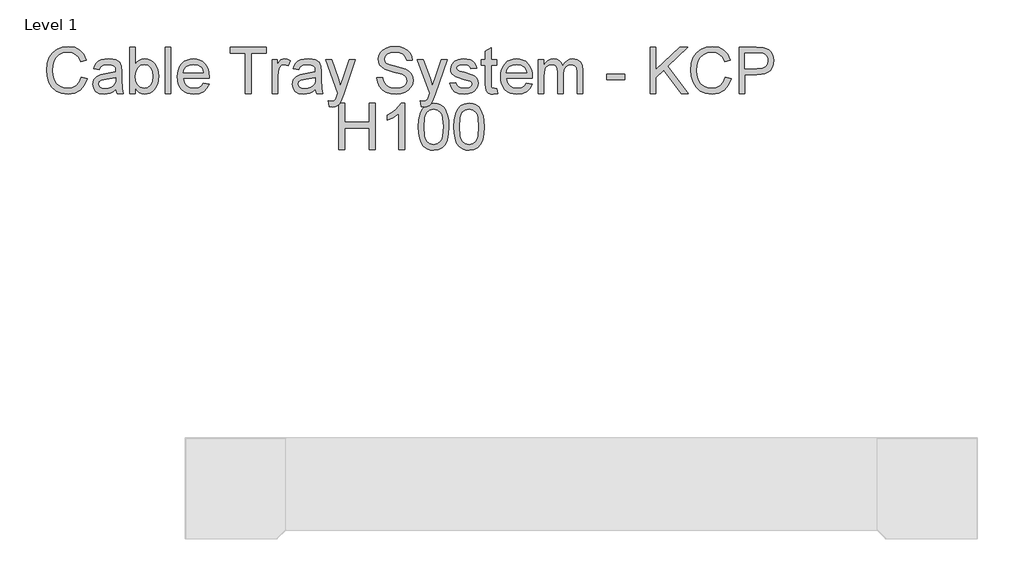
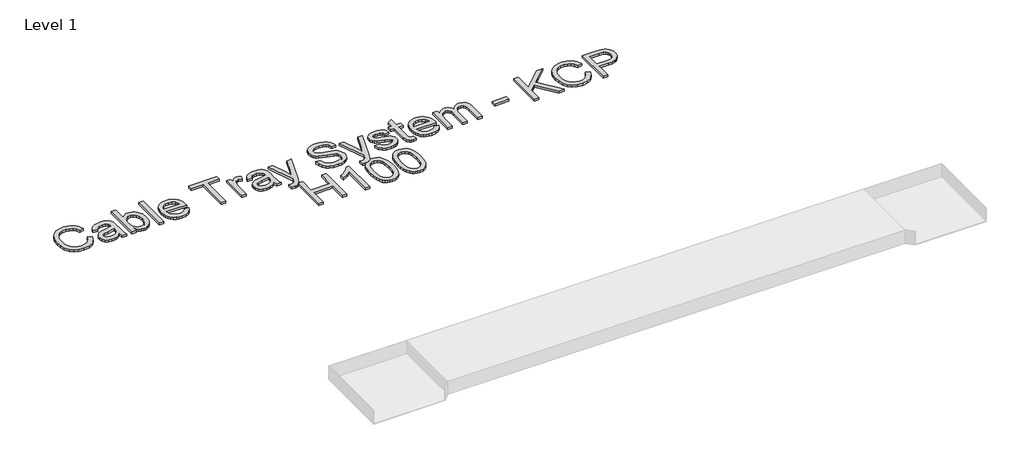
# One storey, part 92 of 106: 1 proxy.
"""IFC4 building model written with IfcOpenShell, lengths in millimetres."""

from ifc_helpers import new_model, si_unit, origin, origin_with_axes, place, context, project, spatial, polyline, outline, extrude, element, save

model = new_model("IFC4")

# Units and contexts
model_context = context("Model", 3, world=origin())
ifc_project = project(units=[si_unit("LENGTHUNIT", "METRE", prefix="MILLI")], contexts=[model_context])

# Site, building, storey
site = spatial("IfcSite", under=ifc_project)
building = spatial("IfcBuilding", under=site)
storey = spatial("IfcBuildingStorey", under=building, Name="Level 1", Elevation=0.0)

# Proxy
placement = place(None, origin())
element("IfcBuildingElementProxy", 1, Name="250mm Arial 3", ObjectType="250mm Arial 3", at=placement, inside=storey, context=model_context, shape_type="SweptSolid", body=[
    extrude(outline(polyline([(164241.9703029, 25992.4106539), (164273.3628998, 25984.31725), (164258.8775462, 25947.7359841), (164236.1455046, 25921.01089), (164206.2857493, 25904.6631338), (164170.4172548, 25899.2138818), (164134.0046015, 25903.3372258), (164105.0875438, 25915.7072579), (164082.9226536, 25935.8947824), (164066.7665027, 25963.4706036), (164056.9026667, 25995.8902044), (164053.6147213, 26030.6090677), (164057.3318623, 26067.2286547), (164068.4832853, 26098.8511778), (164086.4865105, 26124.472626), (164110.7590579, 26143.0889877), (164139.5458241, 26154.4243517), (164171.0917051, 26158.2028064), (164205.5116643, 26153.3130415), (164233.9688695, 26138.643747), (164255.5742725, 26115.0992993), (164269.4388252, 26083.584075), (164238.0462283, 26076.1038078), (164227.1630526, 26098.9967978), (164212.2944886, 26114.7007605), (164193.2565954, 26123.7828472), (164169.8654318, 26126.8102095), (164142.9027473, 26123.4532863), (164120.7531855, 26113.3825166), (164103.9455768, 26097.6555613), (164093.0087517, 26077.3300811), (164087.0076766, 26054.3527848), (164085.0073183, 26030.6703814), (164087.3755586, 26001.6690174), (164094.4802796, 25976.5917281), (164106.5897287, 25956.3965394), (164123.9721529, 25942.0414774), (164144.8111351, 25933.4652284), (164167.2902579, 25930.6064787), (164193.4941858, 25934.4998965), (164215.3295151, 25946.1801498), (164231.815227, 25965.5246114), (164241.9703029, 25992.4106539)])), origin_with_axes(), (0.0, 0.0, 1.0), 15.0),
    extrude(outline(polyline([(164430.3258844, 25926.6824041), (164415.3270289, 25913.8218627), (164399.8836493, 25905.406562), (164383.6431921, 25900.7620518), (164366.2531036, 25899.2138818), (164340.0185188, 25902.938687), (164320.666393, 25914.1131026), (164308.7332208, 25931.0816596), (164304.7554967, 25952.1888891), (164306.2576815, 25965.2027147), (164310.764236, 25977.0209238), (164326.5525049, 25995.0471415), (164348.5334541, 26005.3478374), (164375.6954081, 26010.0689897), (164430.1419434, 26020.8601949), (164430.3258844, 26027.8499528), (164428.1645777, 26041.8601254), (164421.6806575, 26051.0265185), (164407.1799755, 26057.8323354), (164386.9771226, 26060.100941), (164368.2764546, 26058.591092), (164355.2166437, 26054.0615449), (164346.3108338, 26045.6845653), (164340.0721683, 26032.6324187), (164308.6795713, 26036.5564933), (164314.1288234, 26053.7243198), (164322.2605483, 26067.2133262), (164333.8335028, 26077.5293505), (164349.6064433, 26085.1782303), (164368.8972554, 26089.914711), (164391.0238246, 26091.4935379), (164412.2460172, 26090.098652), (164429.0689543, 26085.9139943), (164441.7532189, 26079.6216794), (164450.5593941, 26071.9038217), (164460.1856397, 26050.5973228), (164461.7184813, 26023.1288005), (164461.7184813, 25984.0719953), (164463.3126366, 25929.5334895), (164469.5666306, 25903.1379564), (164438.1740336, 25903.1379564), (164430.3258844, 25926.6824041)]), holes=[polyline([(164430.3258844, 25989.4675979), (164379.6807964, 25979.8413524), (164352.6721266, 25974.7523181), (164340.4400503, 25966.4749732), (164336.1480936, 25954.3961811), (164338.4856772, 25945.0611754), (164345.4984277, 25937.4122956), (164357.0330611, 25932.3079329), (164372.9362932, 25930.6064787), (164389.7975513, 25932.4842097), (164404.6967721, 25938.1174028), (164416.7755643, 25946.4177403), (164425.1755365, 25956.2969047), (164428.9003417, 25966.4749732), (164430.1419434, 25980.5771164), (164430.3258844, 25989.4675979)])]), origin_with_axes(), (0.0, 0.0, 1.0), 15.0),
    extrude(outline(polyline([(164536.275899, 25903.1379564), (164504.8833021, 25903.1379564), (164504.8833021, 26154.2787318), (164536.275899, 26154.2787318), (164536.275899, 26061.1432733), (164546.5995875, 26074.4215141), (164558.2568482, 26083.9059718), (164571.2476812, 26089.5966464), (164585.5720864, 26091.4935379), (164601.7435657, 26089.7844195), (164617.025997, 26084.6570642), (164630.5456603, 26076.4333687), (164641.428836, 26065.4352299), (164656.4200273, 26035.5448178), (164661.8462867, 25998.1128248), (164656.2284221, 25956.2049342), (164649.2060913, 25939.2746982), (164639.3748282, 25925.0269351), (164627.5738635, 25913.7337243), (164614.6424282, 25905.6671451), (164600.5805221, 25900.8271976), (164585.3881454, 25899.2138818), (164570.5923914, 25901.2947143), (164557.475099, 25907.5372119), (164546.0362682, 25917.9413746), (164536.275899, 25932.5072023), (164536.275899, 25903.1379564)]), holes=[polyline([(164536.275899, 25996.6412968), (164538.4218773, 25970.4603615), (164544.8598122, 25952.7407121), (164561.3072031, 25936.140037), (164582.6903441, 25930.6064787), (164600.8085323, 25934.6838375), (164616.290233, 25946.9159138), (164626.9128256, 25967.2260656), (164630.4536898, 25995.5376509), (164627.0584455, 26024.2631033), (164616.8727128, 26044.3433289), (164601.8738573, 26056.161538), (164584.0392447, 26060.100941), (164565.9210565, 26056.0235822), (164550.4393558, 26043.7915059), (164539.8167632, 26023.8492361), (164536.275899, 25996.6412968)])]), origin_with_axes(), (0.0, 0.0, 1.0), 15.0),
    extrude(outline(polyline([(164697.1629582, 25903.1379564), (164697.1629582, 26154.2787318), (164728.5555552, 26154.2787318), (164728.5555552, 25903.1379564), (164697.1629582, 25903.1379564)])), origin_with_axes(), (0.0, 0.0, 1.0), 15.0),
    extrude(outline(polyline([(164904.7710309, 25958.075001), (164935.5504911, 25954.1509264), (164924.4603818, 25930.9590323), (164906.763725, 25913.6225933), (164882.8590595, 25902.8160596), (164853.1449242, 25899.2138818), (164833.666339, 25900.7678), (164816.3107394, 25905.4295547), (164801.0781256, 25913.1991458), (164787.9684974, 25924.0765733), (164777.426379, 25937.759101), (164769.8962944, 25953.9439928), (164765.3782436, 25972.6312485), (164763.8722267, 25993.8208682), (164765.393572, 26015.7290074), (164769.957608, 26035.0389801), (164777.5643347, 26051.7507861), (164788.2137521, 26065.8644256), (164801.2888913, 26077.0771622), (164816.1727837, 26085.0862598), (164832.8654292, 26089.8917184), (164851.3668279, 26091.4935379), (164869.2723344, 26089.8955505), (164885.4648903, 26085.1015883), (164899.9444957, 26077.1116512), (164912.7111506, 26065.9257393), (164923.1325577, 26051.8427566), (164930.57642, 26035.1616074), (164935.0427373, 26015.8822916), (164936.5315098, 25994.0048092), (164936.3475688, 25985.5435233), (164795.2648236, 25985.5435233), (164800.6987473, 25962.0450609), (164813.3216982, 25944.7699355), (164831.5395212, 25934.1473429), (164853.7580609, 25930.6064787), (164870.4660348, 25932.2466193), (164884.5375211, 25937.1670409), (164895.9725198, 25945.6743121), (164904.7710309, 25958.075001)]), holes=[polyline([(164795.2648236, 26016.9361202), (164905.1389129, 26016.9361202), (164900.8929415, 26033.5214669), (164892.5696113, 26045.3856612), (164874.2674821, 26056.4221211), (164851.2442006, 26060.100941), (164830.0833216, 26057.1655493), (164812.5859342, 26048.359374), (164800.4228358, 26034.632777), (164795.2648236, 26016.9361202)])]), origin_with_axes(), (0.0, 0.0, 1.0), 15.0),
    extrude(outline(polyline([(165132.7352405, 25903.1379564), (165132.7352405, 26122.8861348), (165050.3296736, 26122.8861348), (165050.3296736, 26154.2787318), (165246.5334044, 26154.2787318), (165246.5334044, 26122.8861348), (165164.1278375, 26122.8861348), (165164.1278375, 25903.1379564), (165132.7352405, 25903.1379564)])), origin_with_axes(), (0.0, 0.0, 1.0), 15.0),
    extrude(outline(polyline([(165277.9260013, 25903.1379564), (165277.9260013, 26087.5694633), (165305.3945236, 26087.5694633), (165305.3945236, 26060.284882), (165315.5419353, 26076.1038078), (165324.8922693, 26085.423485), (165344.5126424, 26091.4935379), (165360.1476272, 26089.0716481), (165376.0278667, 26081.8059787), (165365.5432298, 26053.6630061), (165343.4703101, 26060.100941), (165334.0969834, 26058.5527709), (165325.7200038, 26053.9082608), (165314.4076325, 26036.7404343), (165309.3185982, 26000.0748621), (165309.3185982, 25903.1379564), (165277.9260013, 25903.1379564)])), origin_with_axes(), (0.0, 0.0, 1.0), 15.0),
    extrude(outline(polyline([(165513.3704782, 25926.6824041), (165498.3716227, 25913.8218627), (165482.9282431, 25905.406562), (165466.6877859, 25900.7620518), (165449.2976974, 25899.2138818), (165423.0631126, 25902.938687), (165403.7109868, 25914.1131026), (165391.7778146, 25931.0816596), (165387.8000905, 25952.1888891), (165389.3022753, 25965.2027147), (165393.8088298, 25977.0209238), (165409.5970987, 25995.0471415), (165431.5780479, 26005.3478374), (165458.7400019, 26010.0689897), (165513.1865372, 26020.8601949), (165513.3704782, 26027.8499528), (165511.2091715, 26041.8601254), (165504.7252513, 26051.0265185), (165490.2245693, 26057.8323354), (165470.0217164, 26060.100941), (165451.3210484, 26058.591092), (165438.2612375, 26054.0615449), (165429.3554276, 26045.6845653), (165423.1167621, 26032.6324187), (165391.7241651, 26036.5564933), (165397.1734172, 26053.7243198), (165405.3051421, 26067.2133262), (165416.8780966, 26077.5293505), (165432.6510371, 26085.1782303), (165451.9418492, 26089.914711), (165474.0684184, 26091.4935379), (165495.290611, 26090.098652), (165512.1135481, 26085.9139943), (165524.7978127, 26079.6216794), (165533.6039879, 26071.9038217), (165543.2302335, 26050.5973228), (165544.7630751, 26023.1288005), (165544.7630751, 25984.0719953), (165546.3572304, 25929.5334895), (165552.6112244, 25903.1379564), (165521.2186274, 25903.1379564), (165513.3704782, 25926.6824041)]), holes=[polyline([(165513.3704782, 25989.4675979), (165462.7253902, 25979.8413524), (165435.7167204, 25974.7523181), (165423.4846441, 25966.4749732), (165419.1926874, 25954.3961811), (165421.530271, 25945.0611754), (165428.5430215, 25937.4122956), (165440.0776549, 25932.3079329), (165455.980887, 25930.6064787), (165472.8421451, 25932.4842097), (165487.7413659, 25938.1174028), (165499.8201581, 25946.4177403), (165508.2201303, 25956.2969047), (165511.9449355, 25966.4749732), (165513.1865372, 25980.5771164), (165513.3704782, 25989.4675979)])]), origin_with_axes(), (0.0, 0.0, 1.0), 15.0),
    extrude(outline(polyline([(165587.9278959, 25832.5046133), (165584.0038213, 25862.7322506), (165599.9453744, 25859.9731356), (165614.8445952, 25863.4373577), (165623.9803314, 25873.0942601), (165632.5642446, 25896.2095122), (165635.0167913, 25903.8124067), (165568.3075228, 26087.5694633), (165601.3555887, 26087.5694633), (165636.7948876, 25985.1143277), (165649.1189344, 25944.1567989), (165661.4429813, 25980.3931754), (165697.8019851, 26087.5694633), (165730.6047964, 26087.5694633), (165666.4093882, 25898.7233725), (165649.7320711, 25857.7658437), (165641.1941431, 25844.6907044), (165631.5219123, 25835.6316103), (165620.3015115, 25830.3433066), (165607.1190733, 25828.5805387), (165587.9278959, 25832.5046133)])), origin_with_axes(), (0.0, 0.0, 1.0), 15.0),
    extrude(outline(polyline([(165846.9168205, 25989.4675979), (165878.3094174, 25989.4675979), (165881.9115953, 25972.0468526), (165888.4261723, 25958.0443442), (165898.5889124, 25946.9312422), (165913.1355796, 25938.1787164), (165930.9165427, 25932.4995381), (165950.7821705, 25930.6064787), (165968.2718937, 25932.0396856), (165983.5849817, 25936.3393065), (165995.9933348, 25943.1451234), (166004.7688533, 25952.0969186), (166009.9881791, 25962.3746218), (166011.7279543, 25973.1581628), (166006.5162927, 25992.7478791), (165998.576173, 26000.4963936), (165985.179137, 26007.0033064), (165939.4697991, 26018.990128), (165890.2655823, 26034.4718287), (165874.6382617, 26045.0331076), (165863.5634808, 26057.8323354), (165856.9645975, 26072.5936004), (165854.7649697, 26089.0409913), (165857.4857637, 26107.4274268), (165865.6481454, 26124.5722607), (165879.0375172, 26139.1035995), (165897.4392812, 26149.64955), (165919.5275293, 26156.0644923), (165943.9763536, 26158.2028064), (165970.4638572, 26155.9648576), (165993.6404229, 26149.2510112), (166012.6783162, 26138.1992229), (166026.7498025, 26122.9474485), (166035.6556124, 26104.4460498), (166039.1964766, 26083.6453887), (166007.8038797, 26083.6453887), (166002.0403951, 26102.3767136), (165990.0229166, 26115.8963769), (165971.2456065, 26124.0817513), (165945.2026269, 26126.8102095), (165918.5465106, 26124.1124082), (165900.2597098, 26116.0190043), (165889.6831024, 26104.1088247), (165886.1575667, 26089.9606963), (165888.6560985, 26077.8972325), (165896.1516942, 26068.1943449), (165913.8713436, 26059.5184612), (165947.4099189, 26050.6586365), (166002.9601001, 26034.9010243), (166020.8560263, 26023.5120109), (166033.3410216, 26009.455853), (166040.6756688, 25992.8858348), (166043.1205513, 25973.9552405), (166040.3077868, 25954.6031147), (166031.8694936, 25936.4006201), (166018.1505608, 25920.7349785), (165999.495878, 25908.9934115), (165977.0627405, 25901.6587642), (165952.0084438, 25899.2138818), (165921.2519762, 25901.8503694), (165895.9370964, 25909.7598323), (165875.7725645, 25922.9729273), (165860.4671407, 25941.5203112), (165850.6416257, 25964.1143971), (165846.9168205, 25989.4675979)])), origin_with_axes(), (0.0, 0.0, 1.0), 15.0),
    extrude(outline(polyline([(166086.285372, 25832.5046133), (166082.3612974, 25862.7322506), (166098.3028505, 25859.9731356), (166113.2020713, 25863.4373577), (166122.3378076, 25873.0942601), (166130.9217208, 25896.2095122), (166133.3742674, 25903.8124067), (166066.664999, 26087.5694633), (166099.7130649, 26087.5694633), (166135.1523637, 25985.1143277), (166147.4764106, 25944.1567989), (166159.8004574, 25980.3931754), (166196.1594613, 26087.5694633), (166228.9622725, 26087.5694633), (166164.7668643, 25898.7233725), (166148.0895472, 25857.7658437), (166139.5516193, 25844.6907044), (166129.8793885, 25835.6316103), (166118.6589876, 25830.3433066), (166105.4765494, 25828.5805387), (166086.285372, 25832.5046133)])), origin_with_axes(), (0.0, 0.0, 1.0), 15.0),
    extrude(outline(polyline([(166243.2483566, 25958.075001), (166274.6409536, 25961.9990756), (166279.5920321, 25948.5713828), (166289.1722924, 25938.6998826), (166303.4430481, 25932.6298297), (166322.4656129, 25930.6064787), (166341.2582515, 25932.4612171), (166354.4713465, 25938.0254323), (166362.2888389, 25946.0881793), (166364.8946697, 25955.4385134), (166362.2735105, 25963.4399468), (166354.4100329, 25969.5406565), (166322.0977309, 25978.4924517), (166274.8248946, 25993.851525), (166262.8610655, 26001.5693827), (166254.192846, 26011.7857723), (166248.9275349, 26023.8492361), (166247.1724313, 26037.1083163), (166252.8132885, 26060.4994798), (166268.2030186, 26078.3724134), (166288.1606169, 26087.6614338), (166315.1692867, 26091.4935379), (166335.6020658, 26089.9530321), (166353.3677005, 26085.3315145), (166367.6537847, 26078.0811735), (166377.6479122, 26068.6541974), (166384.2697881, 26056.3531432), (166388.4391174, 26040.4805679), (166357.0465205, 26036.5564933), (166353.0841248, 26046.4356577), (166345.2436398, 26053.8776039), (166333.4484233, 26058.5451067), (166317.6218333, 26060.100941), (166299.5956156, 26058.6140846), (166287.5781371, 26054.1535154), (166280.8183054, 26047.7155805), (166278.5650282, 26040.2966269), (166282.3051618, 26031.1608907), (166294.016072, 26024.2324465), (166321.0553986, 26017.5492569), (166367.1326185, 26002.7726634), (166379.3033812, 25995.7062634), (166388.5310879, 25986.0340326), (166394.348222, 25973.7253142), (166396.2872666, 25958.7494513), (166394.0109968, 25943.2677507), (166387.1821873, 25928.7057551), (166376.0614211, 25916.2054314), (166360.9092814, 25906.9087468), (166342.6071522, 25901.137598), (166322.0364173, 25899.2138818), (166290.3832373, 25902.9233586), (166267.2833137, 25914.0517889), (166251.8629267, 25932.4765455), (166243.2483566, 25958.075001)])), origin_with_axes(), (0.0, 0.0, 1.0), 15.0),
    extrude(outline(polyline([(166498.3132066, 25929.3188917), (166502.2372812, 25902.2182514), (166478.7541472, 25899.2138818), (166463.6863138, 25900.5167972), (166452.4505846, 25904.4255434), (166439.3294601, 25918.0984909), (166435.5280128, 25953.7217307), (166435.5280128, 26056.1768664), (166411.9835651, 26056.1768664), (166411.9835651, 26087.5694633), (166435.5280128, 26087.5694633), (166435.5280128, 26132.3897531), (166466.9206097, 26150.8451665), (166466.9206097, 26087.5694633), (166498.3132066, 26087.5694633), (166498.3132066, 26056.1768664), (166466.9206097, 26056.1768664), (166466.9206097, 25954.6414357), (166468.5760787, 25938.4546279), (166473.9410244, 25932.7218002), (166484.6402591, 25930.6064787), (166498.3132066, 25929.3188917)])), origin_with_axes(), (0.0, 0.0, 1.0), 15.0),
    extrude(outline(polyline([(166658.8323839, 25958.075001), (166689.6118441, 25954.1509264), (166678.5217348, 25930.9590323), (166660.825078, 25913.6225933), (166636.9204125, 25902.8160596), (166607.2062772, 25899.2138818), (166587.727692, 25900.7678), (166570.3720924, 25905.4295547), (166555.1394786, 25913.1991458), (166542.0298504, 25924.0765733), (166531.487732, 25937.759101), (166523.9576474, 25953.9439928), (166519.4395966, 25972.6312485), (166517.9335797, 25993.8208682), (166519.454925, 26015.7290074), (166524.018961, 26035.0389801), (166531.6256877, 26051.7507861), (166542.2751051, 26065.8644256), (166555.3502443, 26077.0771622), (166570.2341367, 26085.0862598), (166586.9267822, 26089.8917184), (166605.4281809, 26091.4935379), (166623.3336874, 26089.8955505), (166639.5262433, 26085.1015883), (166654.0058487, 26077.1116512), (166666.7725036, 26065.9257393), (166677.1939107, 26051.8427566), (166684.637773, 26035.1616074), (166689.1040903, 26015.8822916), (166690.5928628, 25994.0048092), (166690.4089218, 25985.5435233), (166549.3261766, 25985.5435233), (166554.7601003, 25962.0450609), (166567.3830512, 25944.7699355), (166585.6008742, 25934.1473429), (166607.8194139, 25930.6064787), (166624.5273878, 25932.2466193), (166638.5988741, 25937.1670409), (166650.0338728, 25945.6743121), (166658.8323839, 25958.075001)]), holes=[polyline([(166549.3261766, 26016.9361202), (166659.2002659, 26016.9361202), (166654.9542945, 26033.5214669), (166646.6309644, 26045.3856612), (166628.3288351, 26056.4221211), (166605.3055536, 26060.100941), (166584.1446746, 26057.1655493), (166566.6472872, 26048.359374), (166554.4841888, 26034.632777), (166549.3261766, 26016.9361202)])]), origin_with_axes(), (0.0, 0.0, 1.0), 15.0),
    extrude(outline(polyline([(166721.9854597, 25903.1379564), (166721.9854597, 26087.5694633), (166753.3780566, 26087.5694633), (166753.3780566, 26057.2191987), (166762.8203612, 26071.1603935), (166774.960467, 26082.0818902), (166789.3845069, 26089.140626), (166805.6786136, 26091.4935379), (166823.13768, 26089.0946407), (166837.1325242, 26081.8979492), (166847.5865042, 26070.3786442), (166854.422978, 26055.0119067), (166865.8656409, 26070.9726204), (166878.9177875, 26082.3731301), (166893.5794178, 26089.213436), (166909.8505319, 26091.4935379), (166933.4486291, 26087.6997549), (166950.9000312, 26076.3184056), (166961.6835722, 26057.0429219), (166965.2780858, 26029.5667354), (166965.2780858, 25903.1379564), (166933.8854889, 25903.1379564), (166933.8854889, 26016.0777289), (166930.9730898, 26042.2893211), (166920.4271393, 26055.1958477), (166902.492892, 26060.100941), (166885.4860139, 26056.9586156), (166871.6214612, 26047.5316395), (166862.4014187, 26031.1762191), (166859.3280712, 26007.248561), (166859.3280712, 25903.1379564), (166827.9354743, 25903.1379564), (166827.9354743, 26019.5726079), (166826.119057, 26037.3229141), (166820.6698049, 26049.9841861), (166811.0818804, 26057.5717523), (166796.8494457, 26060.100941), (166784.7553251, 26058.4148152), (166773.6115664, 26053.3564378), (166764.4145165, 26045.048436), (166758.1605226, 26033.6134374), (166753.3780566, 25996.1507875), (166753.3780566, 25903.1379564), (166721.9854597, 25903.1379564)])), origin_with_axes(), (0.0, 0.0, 1.0), 15.0),
    extrude(outline(polyline([(167094.7725481, 25977.6953741), (167094.7725481, 26009.087971), (167192.8744135, 26009.087971), (167192.8744135, 25977.6953741), (167094.7725481, 25977.6953741)])), origin_with_axes(), (0.0, 0.0, 1.0), 15.0),
    extrude(outline(polyline([(167330.2170251, 25903.1379564), (167330.2170251, 26154.2787318), (167361.609622, 26154.2787318), (167361.609622, 26031.3448317), (167490.3683203, 26154.2787318), (167534.268905, 26154.2787318), (167426.1115985, 26051.0265185), (167538.1929797, 25903.1379564), (167499.8106248, 25903.1379564), (167403.8547378, 26029.8119901), (167361.609622, 25989.4675979), (167361.609622, 25903.1379564), (167330.2170251, 25903.1379564)])), origin_with_axes(), (0.0, 0.0, 1.0), 15.0),
    extrude(outline(polyline([(167738.320785, 25992.4106539), (167769.713382, 25984.31725), (167755.2280284, 25947.7359841), (167732.4959868, 25921.01089), (167702.6362315, 25904.6631338), (167666.767737, 25899.2138818), (167630.3550837, 25903.3372258), (167601.438026, 25915.7072579), (167579.2731358, 25935.8947824), (167563.1169848, 25963.4706036), (167553.2531488, 25995.8902044), (167549.9652035, 26030.6090677), (167553.6823445, 26067.2286547), (167564.8337675, 26098.8511778), (167582.8369926, 26124.472626), (167607.1095401, 26143.0889877), (167635.8963062, 26154.4243517), (167667.4421873, 26158.2028064), (167701.8621465, 26153.3130415), (167730.3193516, 26138.643747), (167751.9247547, 26115.0992993), (167765.7893073, 26083.584075), (167734.3967104, 26076.1038078), (167723.5135347, 26098.9967978), (167708.6449708, 26114.7007605), (167689.6070775, 26123.7828472), (167666.215914, 26126.8102095), (167639.2532294, 26123.4532863), (167617.1036676, 26113.3825166), (167600.296059, 26097.6555613), (167589.3592338, 26077.3300811), (167583.3581588, 26054.3527848), (167581.3578004, 26030.6703814), (167583.7260408, 26001.6690174), (167590.8307618, 25976.5917281), (167602.9402108, 25956.3965394), (167620.3226351, 25942.0414774), (167641.1616173, 25933.4652284), (167663.64074, 25930.6064787), (167689.844668, 25934.4998965), (167711.6799972, 25946.1801498), (167728.1657091, 25965.5246114), (167738.320785, 25992.4106539)])), origin_with_axes(), (0.0, 0.0, 1.0), 15.0),
    extrude(outline(polyline([(167812.8782027, 25903.1379564), (167812.8782027, 26154.2787318), (167905.9523475, 26154.2787318), (167943.476311, 26151.8874988), (167960.2072776, 26147.4192654), (167973.9798598, 26140.1459318), (167985.0699691, 26129.737937), (167993.753517, 26115.8657201), (167999.3637175, 26099.5026355), (168001.2337843, 26081.6220377), (167996.183071, 26052.0228655), (167981.0309314, 26027.3594434), (167968.8965737, 26017.6488916), (167952.6963535, 26010.7127832), (167932.4302709, 26006.5511181), (167908.0983258, 26005.1638964), (167844.2707997, 26005.1638964), (167844.2707997, 25903.1379564), (167812.8782027, 25903.1379564)]), holes=[polyline([(167844.2707997, 26036.5564933), (167909.9377358, 26036.5564933), (167937.7741401, 26039.4382356), (167956.1682398, 26048.0834625), (167966.4229505, 26061.9556794), (167969.8411873, 26080.5183917), (167967.8255006, 26094.6205349), (167961.7784403, 26106.5153861), (167952.4510989, 26115.4671813), (167940.5945687, 26120.7401565), (167909.2019718, 26122.8861348), (167844.2707997, 26122.8861348), (167844.2707997, 26036.5564933)])]), origin_with_axes(), (0.0, 0.0, 1.0), 15.0),
    extrude(outline(polyline([(165640.9029032, 25598.2009118), (165640.9029032, 25849.3416872), (165672.2955001, 25849.3416872), (165672.2955001, 25747.3157472), (165805.714037, 25747.3157472), (165805.714037, 25849.3416872), (165837.106634, 25849.3416872), (165837.106634, 25598.2009118), (165805.714037, 25598.2009118), (165805.714037, 25715.9231502), (165672.2955001, 25715.9231502), (165672.2955001, 25598.2009118), (165640.9029032, 25598.2009118)])), origin_with_axes(), (0.0, 0.0, 1.0), 15.0),
    extrude(outline(polyline([(165997.9936932, 25598.2009118), (165966.6010963, 25598.2009118), (165966.6010963, 25793.9141332), (165936.8639683, 25772.7302617), (165903.8159024, 25756.880679), (165903.8159024, 25786.5564933), (165928.4716603, 25799.9688577), (165949.8318087, 25815.9257393), (165966.6700741, 25832.8942963), (165977.7601835, 25849.3416872), (165997.9936932, 25849.3416872), (165997.9936932, 25598.2009118)])), origin_with_axes(), (0.0, 0.0, 1.0), 15.0),
    extrude(outline(polyline([(166072.5511109, 25721.7479485), (166074.8580376, 25761.9467207), (166081.7788176, 25794.0061037), (166093.2444731, 25818.4166069), (166109.1860262, 25835.6687397), (166129.7184401, 25845.9234503), (166154.9566778, 25849.3416872), (166174.3011394, 25847.3183362), (166191.62225, 25841.2482833), (166206.1076035, 25831.3691189), (166216.944794, 25817.9184334), (166231.6600738, 25780.7623519), (166235.936702, 25755.0489333), (166237.3622447, 25721.7479485), (166235.0783107, 25681.7791026), (166228.2265085, 25649.7963616), (166216.8298309, 25625.3628658), (166200.9112704, 25608.0417552), (166180.3328713, 25597.7180667), (166154.9566778, 25594.2768372), (166137.666224, 25595.7713578), (166122.3378076, 25600.2549196), (166108.9714284, 25607.7275226), (166097.5670866, 25618.1891669), (166086.6225972, 25637.1006007), (166078.8051048, 25660.6642089), (166074.1146094, 25688.8799915), (166072.5511109, 25721.7479485)]), holes=[polyline([(166103.9437078, 25721.8092622), (166107.6225278, 25672.4287685), (166112.2210527, 25655.5387696), (166118.6589876, 25643.848936), (166135.0910501, 25630.2143096), (166154.9566778, 25625.6694341), (166174.8223055, 25630.229638), (166191.254368, 25643.9102497), (166197.6923029, 25655.6192438), (166202.2908278, 25672.5054106), (166205.9696478, 25721.8092622), (166202.4134552, 25770.0784456), (166197.9682144, 25786.912879), (166191.7448773, 25798.8805402), (166175.3434717, 25813.1819527), (166154.5887958, 25817.9490902), (166134.9377659, 25813.7491041), (166119.1494969, 25801.1491458), (166112.4969642, 25788.1199918), (166107.7451551, 25770.5536265), (166103.9437078, 25721.8092622)])]), origin_with_axes(), (0.0, 0.0, 1.0), 15.0),
    extrude(outline(polyline([(166264.830767, 25721.7479485), (166267.1376937, 25761.9467207), (166274.0584737, 25794.0061037), (166285.5241293, 25818.4166069), (166301.4656824, 25835.6687397), (166321.9980962, 25845.9234503), (166347.2363339, 25849.3416872), (166366.5807955, 25847.3183362), (166383.9019061, 25841.2482833), (166398.3872597, 25831.3691189), (166409.2244501, 25817.9184334), (166423.9397299, 25780.7623519), (166428.2163581, 25755.0489333), (166429.6419009, 25721.7479485), (166427.3579668, 25681.7791026), (166420.5061647, 25649.7963616), (166409.109487, 25625.3628658), (166393.1909265, 25608.0417552), (166372.6125274, 25597.7180667), (166347.2363339, 25594.2768372), (166329.9458802, 25595.7713578), (166314.6174637, 25600.2549196), (166301.2510845, 25607.7275226), (166289.8467427, 25618.1891669), (166278.9022533, 25637.1006007), (166271.0847609, 25660.6642089), (166266.3942655, 25688.8799915), (166264.830767, 25721.7479485)]), holes=[polyline([(166296.2233639, 25721.8092622), (166299.9021839, 25672.4287685), (166304.5007088, 25655.5387696), (166310.9386438, 25643.848936), (166327.3707062, 25630.2143096), (166347.2363339, 25625.6694341), (166367.1019617, 25630.229638), (166383.5340241, 25643.9102497), (166389.9719591, 25655.6192438), (166394.570484, 25672.5054106), (166398.2493039, 25721.8092622), (166394.6931113, 25770.0784456), (166390.2478705, 25786.912879), (166384.0245335, 25798.8805402), (166367.6231278, 25813.1819527), (166346.8684519, 25817.9490902), (166327.217422, 25813.7491041), (166311.4291531, 25801.1491458), (166304.7766203, 25788.1199918), (166300.0248112, 25770.5536265), (166296.2233639, 25721.8092622)])]), origin_with_axes(), (0.0, 0.0, 1.0), 15.0),
])

save(model, "model.ifc")
